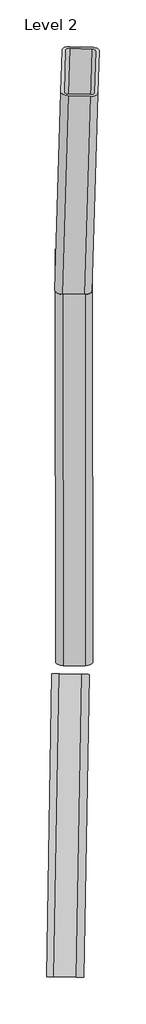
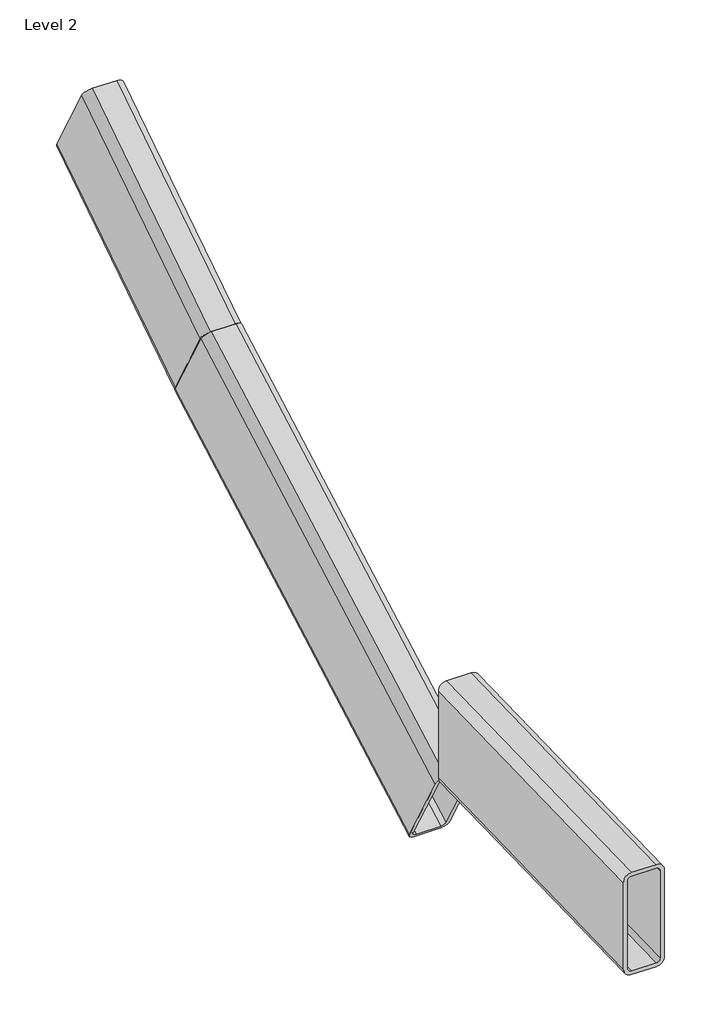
# One storey: 3 beams.
"""IFC4 building model written with IfcOpenShell, lengths in millimetres."""

from ifc_helpers import new_model, si_unit, origin, place, context, project, spatial, transform, mapped, element, save
from components import rectangular_and_square_hollow_sections_33797d7a, rectangular_and_square_hollow_sections_276cb345, rectangular_and_square_hollow_sections_a85866e6

model = new_model("IFC4")

# Units and contexts
model_context = context("Model", 3, world=origin())
ifc_project = project(units=[si_unit("LENGTHUNIT", "METRE", prefix="MILLI")], contexts=[model_context])

# Site, building, storey
site = spatial("IfcSite", under=ifc_project)
building = spatial("IfcBuilding", under=site)
storey = spatial("IfcBuildingStorey", under=building, Name="Level 2", Elevation=-6140.0)

# Beams
placement = place(None, origin())
rectangular_and_square_hollow_sections_shape = rectangular_and_square_hollow_sections_33797d7a(model_context)
element("IfcBeam", 1, ObjectType="Rectangular and Square Hollow Sections : TREC160x60x6", at=placement, inside=storey, context=model_context, shape_type="MappedRepresentation", body=[
    mapped(rectangular_and_square_hollow_sections_shape, transform((292.2072604, -832.6538171, -5954.2984785), x_axis=(-0.017851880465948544, -0.9998405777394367, -0.00035981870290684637), y_axis=(0.9998406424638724, -0.017851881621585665, 0.0), z_axis=(-6.423440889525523e-06, -0.00035976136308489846, 0.9999999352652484))),
])
rectangular_and_square_hollow_sections_2_shape = rectangular_and_square_hollow_sections_276cb345(model_context)
element("IfcBeam", 2, ObjectType="Rectangular and Square Hollow Sections : TREC160x60x6", at=placement, inside=storey, context=model_context, shape_type="MappedRepresentation", body=[
    mapped(rectangular_and_square_hollow_sections_2_shape, transform((299.3216939, -260.9239956, -5862.628083), x_axis=(-0.0008626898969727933, 0.8734567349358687, 0.48690100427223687), y_axis=(-0.9999995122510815, -0.0009876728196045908, 0.0), z_axis=(0.0004808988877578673, -0.48690076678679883, 0.8734571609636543))),
])
rectangular_and_square_hollow_sections_3_shape = rectangular_and_square_hollow_sections_a85866e6(model_context)
element("IfcBeam", 3, ObjectType="Rectangular and Square Hollow Sections : TREC160x60x6", at=placement, inside=storey, context=model_context, shape_type="MappedRepresentation", body=[
    mapped(rectangular_and_square_hollow_sections_3_shape, transform((303.9378829, 57.4882674, -5682.965567), x_axis=(0.0268900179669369, 0.8679070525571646, 0.49599826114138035), y_axis=(-0.9995203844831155, 0.03096774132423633, 0.0), z_axis=(-0.015359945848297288, -0.4957603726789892, 0.8683235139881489))),
])

save(model, "model.ifc")
